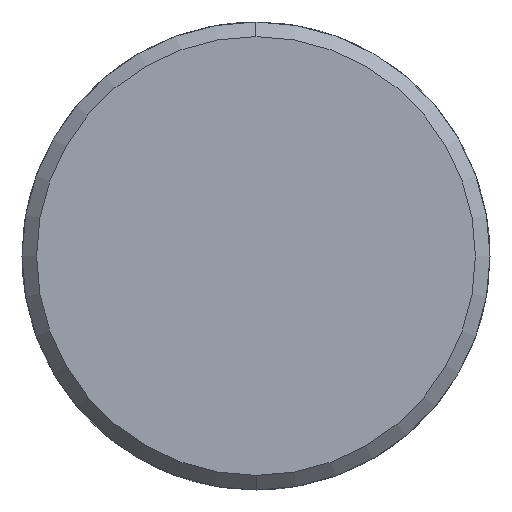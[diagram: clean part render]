
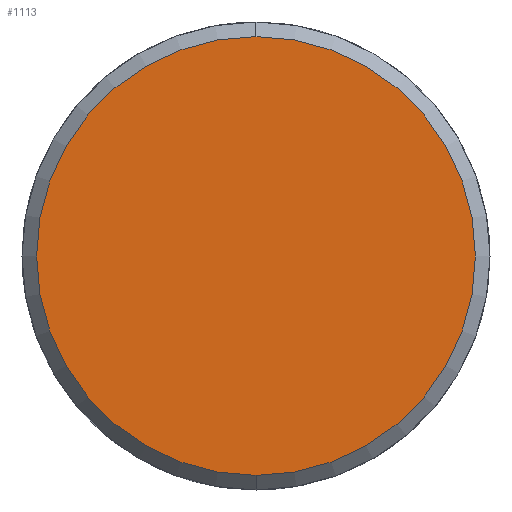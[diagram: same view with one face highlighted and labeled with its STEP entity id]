
A CAD part, left-side view. The second image highlights one B-rep face of the part: STEP entity #1113.
In plain terms, the highlighted planar face has unit normal (-1, 0, 0).
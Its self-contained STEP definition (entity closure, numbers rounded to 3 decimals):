
#1045=CARTESIAN_POINT('Vertex',(-6.,0.,-15.)) ;
#1048=CARTESIAN_POINT('Axis2P3D Location',(-6.,0.,0.)) ;
#1052=CARTESIAN_POINT('Vertex',(-6.,15.,0.)) ;
#1055=CARTESIAN_POINT('Axis2P3D Location',(-6.,0.,0.)) ;
#1059=CARTESIAN_POINT('Vertex',(-6.,0.,15.)) ;
#1081=CARTESIAN_POINT('Axis2P3D Location',(-6.,0.,0.)) ;
#1085=CARTESIAN_POINT('Vertex',(-6.,-15.,0.)) ;
#1088=CARTESIAN_POINT('Axis2P3D Location',(-6.,0.,0.)) ;
#1102=CARTESIAN_POINT('Axis2P3D Location',(-6.,0.,0.)) ;
#1049=DIRECTION('Axis2P3D Direction',(1.,0.,-0.)) ;
#1056=DIRECTION('Axis2P3D Direction',(1.,0.,-0.)) ;
#1082=DIRECTION('Axis2P3D Direction',(1.,0.,-0.)) ;
#1089=DIRECTION('Axis2P3D Direction',(1.,0.,-0.)) ;
#1103=DIRECTION('Axis2P3D Direction',(1.,0.,-0.)) ;
#1104=DIRECTION('Axis2P3D XDirection',(-0.,0.,-1.)) ;
#1050=AXIS2_PLACEMENT_3D('Circle Axis2P3D',#1048,#1049,$) ;
#1057=AXIS2_PLACEMENT_3D('Circle Axis2P3D',#1055,#1056,$) ;
#1083=AXIS2_PLACEMENT_3D('Circle Axis2P3D',#1081,#1082,$) ;
#1090=AXIS2_PLACEMENT_3D('Circle Axis2P3D',#1088,#1089,$) ;
#1105=AXIS2_PLACEMENT_3D('Plane Axis2P3D',#1102,#1103,#1104) ;
#1108=ORIENTED_EDGE('',*,*,#1054,.F.) ;
#1109=ORIENTED_EDGE('',*,*,#1092,.F.) ;
#1110=ORIENTED_EDGE('',*,*,#1087,.F.) ;
#1111=ORIENTED_EDGE('',*,*,#1061,.F.) ;
#1113=ADVANCED_FACE('351-20X26X60',(#1112),#1106,.F.) ;
#1051=CIRCLE('generated circle',#1050,15.) ;
#1058=CIRCLE('generated circle',#1057,15.) ;
#1084=CIRCLE('generated circle',#1083,15.) ;
#1091=CIRCLE('generated circle',#1090,15.) ;
#1054=EDGE_CURVE('',#1046,#1053,#1051,.T.) ;
#1061=EDGE_CURVE('',#1053,#1060,#1058,.T.) ;
#1087=EDGE_CURVE('',#1060,#1086,#1084,.T.) ;
#1092=EDGE_CURVE('',#1086,#1046,#1091,.T.) ;
#1107=EDGE_LOOP('',(#1108,#1109,#1110,#1111)) ;
#1112=FACE_OUTER_BOUND('',#1107,.T.) ;
#1106=PLANE('Plane',#1105) ;
#1046=VERTEX_POINT('',#1045) ;
#1053=VERTEX_POINT('',#1052) ;
#1060=VERTEX_POINT('',#1059) ;
#1086=VERTEX_POINT('',#1085) ;
